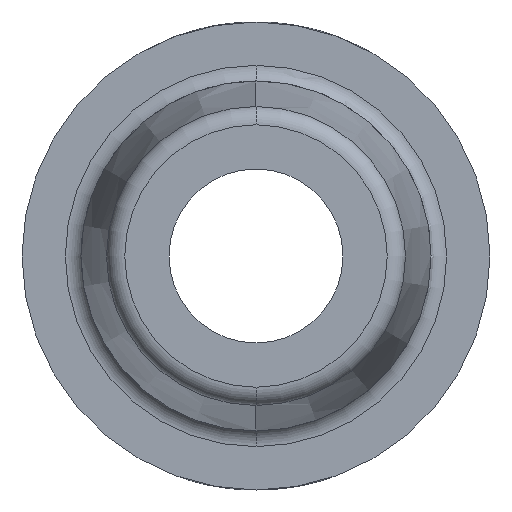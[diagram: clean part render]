
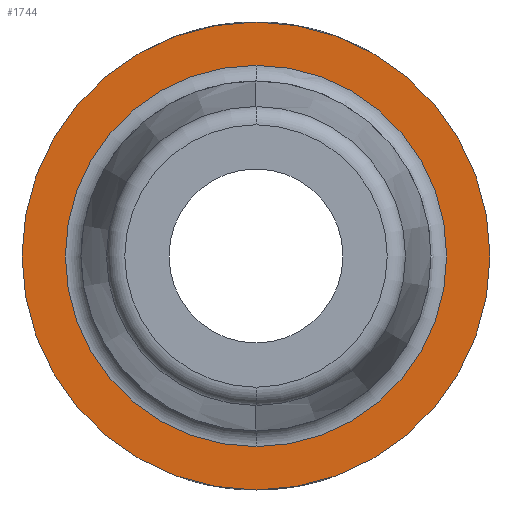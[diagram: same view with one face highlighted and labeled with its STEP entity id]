
A CAD part, left-side view. The second image highlights one B-rep face of the part: STEP entity #1744.
In plain terms, the highlighted planar face has unit normal (-1, 0, 0).
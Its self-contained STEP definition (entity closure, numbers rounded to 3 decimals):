
#387=FACE_BOUND('',#528,.T.);
#399=PLANE('',#1873);
#426=FACE_OUTER_BOUND('',#527,.T.);
#527=EDGE_LOOP('',(#1190,#1191));
#528=EDGE_LOOP('',(#1192,#1193));
#639=CIRCLE('',#1868,2.587);
#644=CIRCLE('',#1874,3.175);
#645=CIRCLE('',#1875,3.175);
#646=CIRCLE('',#1876,2.587);
#716=VERTEX_POINT('',#2397);
#717=VERTEX_POINT('',#2398);
#721=VERTEX_POINT('',#2408);
#722=VERTEX_POINT('',#2409);
#906=EDGE_CURVE('',#716,#717,#639,.T.);
#911=EDGE_CURVE('',#721,#722,#644,.T.);
#912=EDGE_CURVE('',#722,#721,#645,.T.);
#913=EDGE_CURVE('',#717,#716,#646,.T.);
#1190=ORIENTED_EDGE('',*,*,#911,.T.);
#1191=ORIENTED_EDGE('',*,*,#912,.T.);
#1192=ORIENTED_EDGE('',*,*,#913,.T.);
#1193=ORIENTED_EDGE('',*,*,#906,.T.);
#1744=ADVANCED_FACE('',(#426,#387),#399,.F.);
#1868=AXIS2_PLACEMENT_3D('',#2399,#2012,#2013);
#1873=AXIS2_PLACEMENT_3D('',#2407,#2022,#2023);
#1874=AXIS2_PLACEMENT_3D('',#2410,#2024,#2025);
#1875=AXIS2_PLACEMENT_3D('',#2411,#2026,#2027);
#1876=AXIS2_PLACEMENT_3D('',#2412,#2028,#2029);
#2012=DIRECTION('center_axis',(1.,0.,0.));
#2013=DIRECTION('ref_axis',(0.,0.,
1.));
#2022=DIRECTION('center_axis',(1.,0.,0.));
#2023=DIRECTION('ref_axis',(0.,0.,-1.));
#2024=DIRECTION('center_axis',(-1.,0.,0.));
#2025=DIRECTION('ref_axis',(0.,0.,1.));
#2026=DIRECTION('center_axis',(-1.,0.,0.));
#2027=DIRECTION('ref_axis',(0.,0.,
-1.));
#2028=DIRECTION('center_axis',(1.,0.,0.));
#2029=DIRECTION('ref_axis',(0.,0.,-1.));
#2397=CARTESIAN_POINT('',(-12.25,0.,2.587));
#2398=CARTESIAN_POINT('',(-12.25,0.,-2.587));
#2399=CARTESIAN_POINT('Origin',(-12.25,0.,0.));
#2407=CARTESIAN_POINT('Origin',(-12.25,-3.213,0.));
#2408=CARTESIAN_POINT('',(-12.25,0.,3.175));
#2409=CARTESIAN_POINT('',(-12.25,0.,-3.175));
#2410=CARTESIAN_POINT('Origin',(-12.25,0.,0.));
#2411=CARTESIAN_POINT('Origin',(-12.25,0.,0.));
#2412=CARTESIAN_POINT('Origin',(-12.25,0.,0.));
